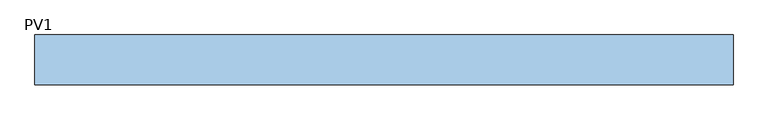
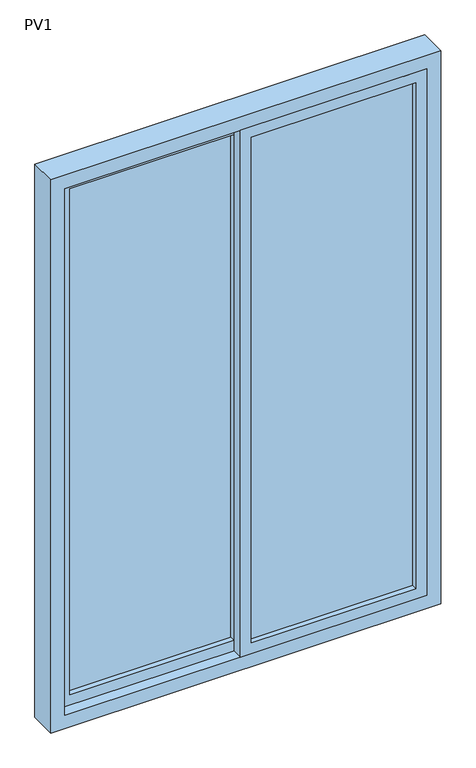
"""IFC4 building model written with IfcOpenShell, lengths in millimetres: window geometry, Vtana Corrediza : PV1."""

from ifc_helpers import new_model, si_unit, frame, origin, place, context, project, spatial, polyline, outline, extrude, source, transform, mapped, element, save


def pv1_efd1b192(model_context):
    return source(origin(), model_context, "Body", "SweptSolid", [
        extrude(outline(polyline([(-20.0, 41.5), (-20.0, 36.5), (-610.0, 36.5), (-610.0, 41.5), (-20.0, 41.5)])), frame((0.0, 0.0, 890.0), z_axis=(0.0, 0.0, 1.0), x_axis=(1.0, 0.0, 0.0)), (0.0, 0.0, 1.0), 1920.0),
        extrude(outline(polyline([(610.0, 1.5), (610.0, -3.5), (20.0, -3.5), (20.0, 1.5), (610.0, 1.5)])), frame((0.0, 0.0, 890.0), z_axis=(0.0, 0.0, 1.0), x_axis=(1.0, 0.0, 0.0)), (0.0, 0.0, 1.0), 1920.0),
        extrude(outline(polyline([(2850.0, -650.0), (850.0, -650.0), (850.0, 20.0), (2850.0, 20.0), (2850.0, -650.0)]), holes=[polyline([(2810.0, -610.0), (2810.0, -20.0), (890.0, -20.0), (890.0, -610.0), (2810.0, -610.0)])]), frame((0.0, 16.5, 0.0), z_axis=(0.0, 1.0, 0.0), x_axis=(0.0, 0.0, 1.0)), (0.0, 0.0, 1.0), 40.0),
        extrude(outline(polyline([(2850.0, -20.0), (850.0, -20.0), (850.0, 650.0), (2850.0, 650.0), (2850.0, -20.0)]), holes=[polyline([(2810.0, 610.0), (890.0, 610.0), (890.0, 20.0), (2810.0, 20.0), (2810.0, 610.0)])]), frame((0.0, -23.5, 0.0), z_axis=(0.0, 1.0, 0.0), x_axis=(0.0, 0.0, 1.0)), (0.0, 0.0, 1.0), 40.0),
        extrude(outline(polyline([(2900.0, -700.0), (800.0, -700.0), (800.0, 700.0), (2900.0, 700.0), (2900.0, -700.0)]), holes=[polyline([(2850.0, -650.0), (2850.0, 650.0), (850.0, 650.0), (850.0, -650.0), (2850.0, -650.0)])]), frame((0.0, -23.5, 0.0), z_axis=(0.0, 1.0, 0.0), x_axis=(0.0, 0.0, 1.0)), (0.0, 0.0, 1.0), 100.0),
    ])


if __name__ == "__main__":
    model = new_model("IFC4")
    model_context = context("Model", 3, world=origin())
    ifc_project = project(units=[si_unit("LENGTHUNIT", "METRE", prefix="MILLI")], contexts=[model_context])
    site = spatial("IfcSite", under=ifc_project)
    building = spatial("IfcBuilding", under=site)
    placement = place(None, origin())
    pv1_shape = pv1_efd1b192(model_context)
    element("IfcWindow", 1, ObjectType="Vtana Corrediza : PV1", at=placement, inside=building, context=model_context, shape_type="MappedRepresentation", body=[
        mapped(pv1_shape, transform((0.0, 0.0, 0.0), x_axis=(1.0, 0.0, 0.0), y_axis=(0.0, 1.0, 0.0), z_axis=(0.0, 0.0, 1.0))),
    ])
    save(model, "model.ifc")
